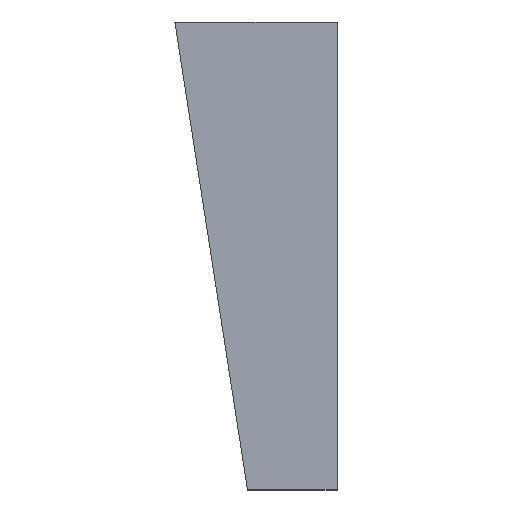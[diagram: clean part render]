
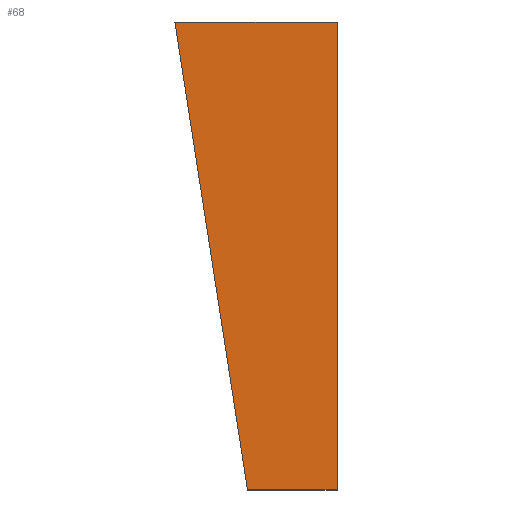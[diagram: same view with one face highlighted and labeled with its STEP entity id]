
A CAD part, top view. The second image highlights one B-rep face of the part: STEP entity #68.
In plain terms, the highlighted planar face has unit normal (0, 0, 1).
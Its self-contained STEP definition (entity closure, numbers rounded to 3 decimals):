
#42=FACE_OUTER_BOUND($,#48,.F.);
#48=EDGE_LOOP($,(#74,#75,#76,#77));
#54=AXIS2_PLACEMENT_3D($,#188,#166,$);
#62=PLANE($,#54);
#68=ADVANCED_FACE($,(#42),#62,.T.);
#74=ORIENTED_EDGE($,*,*,#98,.T.);
#75=ORIENTED_EDGE($,*,*,#99,.T.);
#76=ORIENTED_EDGE($,*,*,#100,.T.);
#77=ORIENTED_EDGE($,*,*,#101,.T.);
#98=EDGE_CURVE($,#137,#138,#124,.T.);
#99=EDGE_CURVE($,#138,#139,#125,.T.);
#100=EDGE_CURVE($,#139,#140,#126,.T.);
#101=EDGE_CURVE($,#140,#137,#127,.T.);
#111=VECTOR($,#169,315.);
#112=VECTOR($,#170,1664.647);
#113=VECTOR($,#171,570.);
#114=VECTOR($,#172,1645.);
#124=LINE($,#187,#111);
#125=LINE($,#188,#112);
#126=LINE($,#189,#113);
#127=LINE($,#190,#114);
#137=VERTEX_POINT($,#187);
#138=VERTEX_POINT($,#188);
#139=VERTEX_POINT($,#189);
#140=VERTEX_POINT($,#190);
#166=DIRECTION($,(0.,0.,1.));
#169=DIRECTION($,(-1.,0.,0.));
#170=DIRECTION($,(-0.153,0.988,0.));
#171=DIRECTION($,(1.,0.,0.));
#172=DIRECTION($,(0.,-1.,0.));
#187=CARTESIAN_POINT('',(314.999,-0.001,0.));
#188=CARTESIAN_POINT('',(-0.001,-0.001,0.));
#189=CARTESIAN_POINT('',(-255.001,1644.999,0.));
#190=CARTESIAN_POINT('',(314.999,1644.999,0.));
